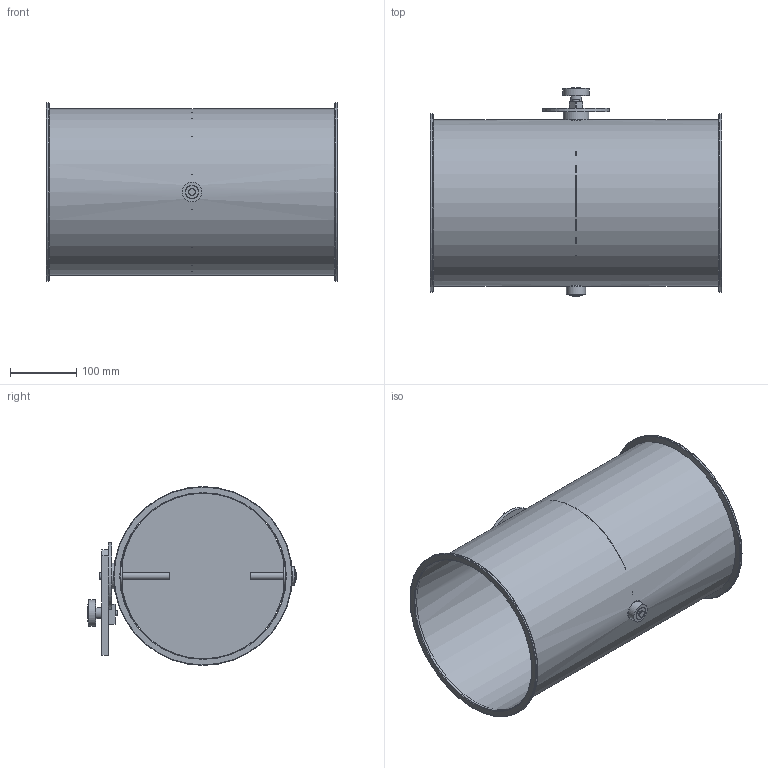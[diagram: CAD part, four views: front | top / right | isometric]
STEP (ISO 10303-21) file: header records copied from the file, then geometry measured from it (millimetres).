
FILE_DESCRIPTION(/* description */ (''),/* implementation_level */ '2;1');
FILE_NAME(/* name */ 'METU_Drosselklappe_Flansch_verzinkt_EA103-80B__250_L440_handbetaetigt.stp',/* time_stamp */ '2022-04-22T14:44:32+02:00',/* author */ (''),/* organization */ (''),/* preprocessor_version */ 'ST-DEVELOPER v11',/* originating_system */ 'SIEMENS UGS NX 6.0',/* authorisation */ '');
FILE_SCHEMA (('CONFIG_CONTROL_DESIGN'));
Length unit declared in the file: millimetre
Products named in the file (1): d.ga332Aq98i
Bounding box: 440 x 315.31 x 270 mm (x, y, z)
Volume: 523680.8 mm3; surface area: 870969.2 mm2
Topology: 12 solids, 12 shells, 85 faces, 172 edges, 116 vertices
Faces by surface type: plane 40, cylinder 35, torus 6, cone 2, sphere 2
Full cylindrical faces by diameter (mm): 4.4 x5, 6.8 x1, 8 x1, 9 x1, 10 x5, 16.5 x1, 19 x3, 19.85 x2, 20 x2, 29 x1, 30 x2, 35 x1, 39 x1, 40 x1, 100 x1, 250 x1, 251.6 x1, 270 x2
Entity records: 2112 total; most frequent: CARTESIAN_POINT 374, DIRECTION 358, ORIENTED_EDGE 236, EDGE_LOOP 162, AXIS2_PLACEMENT_3D 158, FACE_BOUND 140, EDGE_CURVE 118, VERTEX_POINT 102
